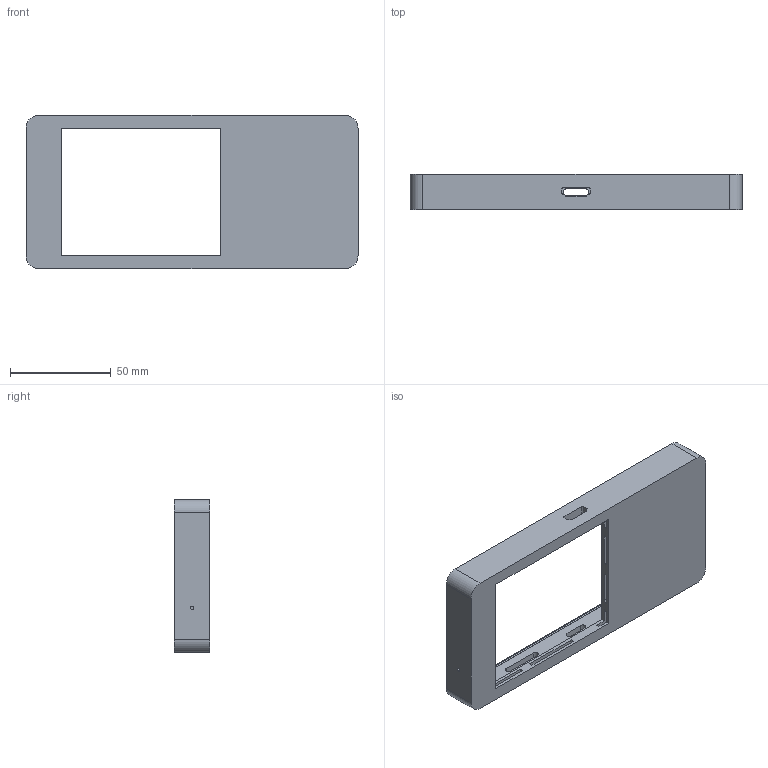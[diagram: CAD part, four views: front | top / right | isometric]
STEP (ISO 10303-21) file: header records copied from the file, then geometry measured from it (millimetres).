
FILE_DESCRIPTION (( 'STEP AP203' ), '1' );
FILE_NAME ('Phone MU2 Front Case.STEP', '2025-12-16T02:12:09', ( '' ), ( '' ), 'SwSTEP 2.0', 'SolidWorks 2024', '' );
FILE_SCHEMA (( 'CONFIG_CONTROL_DESIGN' ));
Length unit declared in the file: inch
Products named in the file (1): Phone MU2 Front Case
Bounding box: 165.1 x 17.46 x 76.2 mm (x, y, z)
Volume: 50097.8 mm3; surface area: 48328.9 mm2
Topology: 1 solids, 61 shells, 469 faces, 993 edges, 653 vertices
Faces by surface type: plane 384, cylinder 73, torus 12
Entity records: 12421 total; most frequent: CARTESIAN_POINT 2116, DIRECTION 2100, ORIENTED_EDGE 1986, EDGE_CURVE 993, LINE 826, VECTOR 826, VERTEX_POINT 653, AXIS2_PLACEMENT_3D 637
